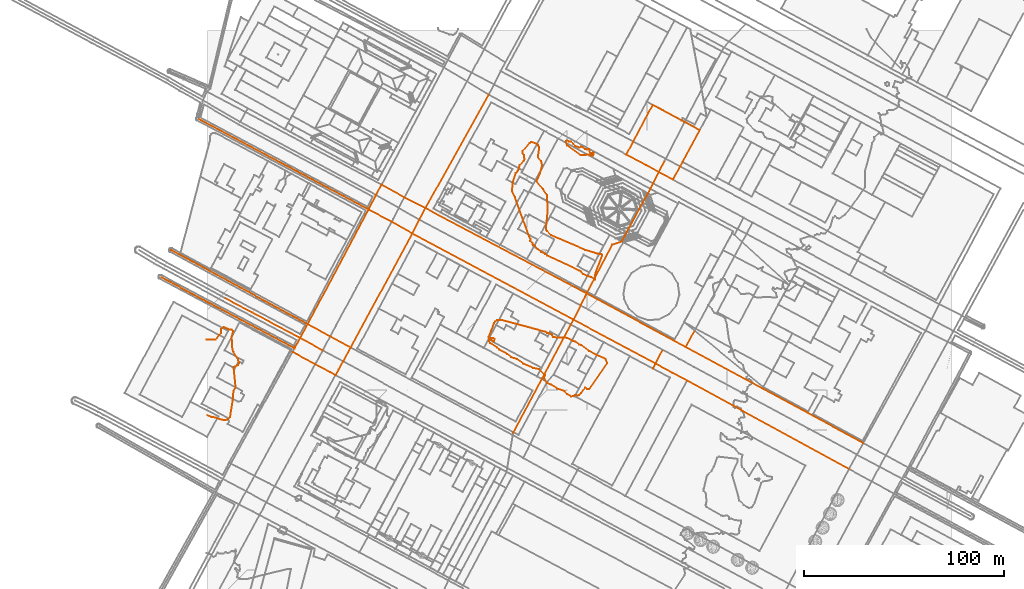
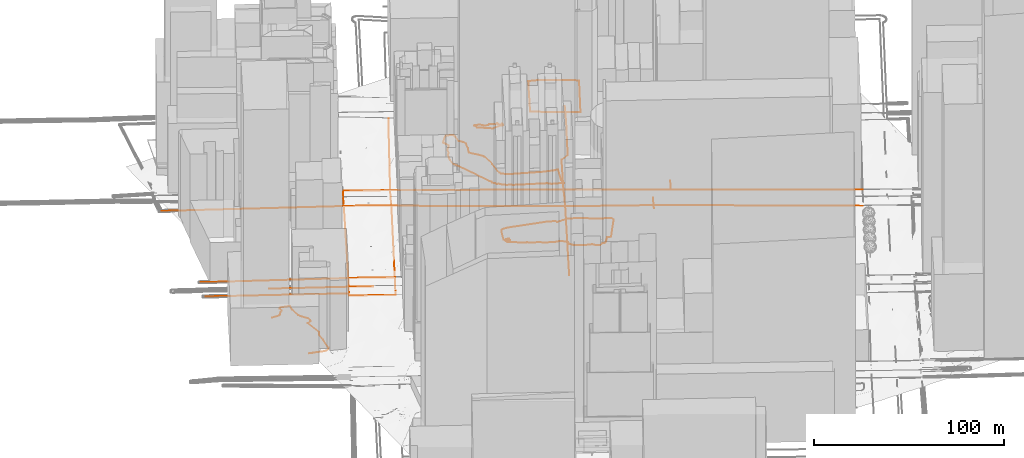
# Not in any storey, part 63 of 80: 22 civil elements, 4 geographic elements.
"""IFC4 model written with IfcOpenShell, lengths in metres."""

from ifc_helpers import new_model, entity, si_unit, frame, origin_with_axes, place, context, subcontext, project, spatial, element, save


model = new_model("IFC4")

# Units and contexts
model_context = context("Model", 3, precision=1e-05, world=origin_with_axes())
body_context = subcontext(model_context, "Body", "Model", "MODEL_VIEW")
ifc_project = project(units=[si_unit("AREAUNIT", "SQUARE_METRE"), si_unit("LENGTHUNIT", "METRE")], contexts=[model_context])

# Sites
site_1_placement = place(None, origin_with_axes())
site_1 = spatial("IfcSite", under=ifc_project, at=site_1_placement, Name="Topoexport Site")
site_2_placement = place(site_1_placement, origin_with_axes())
site_2 = spatial("IfcSite", under=site_1, at=site_2_placement, Name="TPX_ROUTES")

# Civil elements
civil_element_1_placement = place(site_2_placement, frame((221.6914920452, 300.1820826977, 22.0065452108), z_axis=(0.0, 0.0, 1.0), x_axis=(1.0, 0.0, 0.0)))
element("IfcCivilElement", 1, at=civil_element_1_placement, inside=site_2, Name="Route 0", ObjectType="ROAD", context=body_context, shape_type="GeometricCurveSet", body=[
    entity("IfcGeometricCurveSet", [entity("IfcIndexedPolyCurve", entity("IfcCartesianPointList3D", [[7.1813434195, 13.9835591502, -0.007102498], [4.3171463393, 8.3991133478, -0.0301236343], [1.3868431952, 2.6917750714, -0.0089403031], [0.0, 0.0, 0.0]]))]),
])
civil_element_2_placement = place(site_2_placement, frame((209.716351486, 317.3290231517, 22.5387730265), z_axis=(0.0, 0.0, 1.0), x_axis=(1.0, 0.0, 0.0)))
element("IfcCivilElement", 2, at=civil_element_2_placement, inside=site_2, Name="Route 18", ObjectType="ROAD", context=body_context, shape_type="GeometricCurveSet", body=[
    entity("IfcGeometricCurveSet", [entity("IfcIndexedPolyCurve", entity("IfcCartesianPointList3D", [[13.224989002, 24.9007489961, -0.0643946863], [3.4611854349, 6.51286982, -0.0049201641], [0.0, 0.0, 0.0], [9.8195148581, -5.2703915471, -0.3813969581], [16.2922868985, -8.7478271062, -0.56235145], [23.3089849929, -12.5408953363, -0.8260529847], [26.8958559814, -5.9488364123, -0.8414921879], [28.0941194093, -3.7366492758, -0.7556451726], [36.7634854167, 12.2182371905, -0.1904538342], [29.1522436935, 16.3263411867, 0.3171468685], [27.6912307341, 17.1087071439, 0.3496432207], [18.2621757, 22.1948782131, 0.4989657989], [13.224989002, 24.9007489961, -0.0643946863]]))]),
])
civil_element_3_placement = place(site_2_placement, frame((190.2222719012, 248.6125172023, 21.7573858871), z_axis=(0.0, 0.0, 1.0), x_axis=(1.0, 0.0, 0.0)))
element("IfcCivilElement", 3, at=civil_element_3_placement, inside=site_2, Name="Route 22", ObjectType="ROAD", context=body_context, shape_type="GeometricCurveSet", body=[
    entity("IfcGeometricCurveSet", [entity("IfcIndexedPolyCurve", entity("IfcCartesianPointList3D", [[31.469220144, 51.5695654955, 0.2491593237], [17.1970672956, 25.2466581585, 0.1757418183], [12.4971571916, 23.6265853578, -0.2456597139], [0.0, 0.0, 0.0]]))]),
])
civil_element_4_placement = place(site_2_placement, frame((239.4445487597, 221.0185473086, 20.588457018), z_axis=(0.0, 0.0, 1.0), x_axis=(1.0, 0.0, 0.0)))
element("IfcCivilElement", 4, at=civil_element_4_placement, inside=site_2, Name="Route 26", ObjectType="ROAD", context=body_context, shape_type="GeometricCurveSet", body=[
    entity("IfcGeometricCurveSet", [entity("IfcIndexedPolyCurve", entity("IfcCartesianPointList3D", [[4.3627355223, 8.1109935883, -0.0503170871], [0.0, 0.0, 0.0]]))]),
])
civil_element_5_placement = place(site_2_placement, frame((183.2933523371, 234.687446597, 21.2020044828), z_axis=(0.0, 0.0, 1.0), x_axis=(1.0, 0.0, 0.0)))
element("IfcCivilElement", 5, at=civil_element_5_placement, inside=site_2, Name="Route 28", ObjectType="ROAD", context=body_context, shape_type="GeometricCurveSet", body=[
    entity("IfcGeometricCurveSet", [entity("IfcIndexedPolyCurve", entity("IfcCartesianPointList3D", [[6.9289195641, 13.9250706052, 0.5553814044], [6.5412600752, 13.1434054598, 0.5564297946], [3.5721866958, 7.1358717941, 0.5930666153], [0.0, 0.0, 0.0]]))]),
])
civil_element_6_placement = place(site_2_placement, frame((223.0244156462, 210.2581966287, 20.9465773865), z_axis=(0.0, 0.0, 1.0), x_axis=(1.0, 0.0, 0.0)))
element("IfcCivilElement", 6, at=civil_element_6_placement, inside=site_2, Name="Route 29", ObjectType="ROAD", context=body_context, shape_type="GeometricCurveSet", body=[
    entity("IfcGeometricCurveSet", [entity("IfcIndexedPolyCurve", entity("IfcCartesianPointList3D", [[4.8122586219, 9.3818691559, -0.111767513], [1.2625798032, 2.4904885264, -0.0685903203], [0.0, 0.0, 0.0]]))]),
])
civil_element_7_placement = place(site_2_placement, frame((102.657445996, 277.837477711, 23.607753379), z_axis=(0.0, 0.0, 1.0), x_axis=(1.0, 0.0, 0.0)))
element("IfcCivilElement", 7, at=civil_element_7_placement, inside=site_2, Name="Route 63", ObjectType="ROAD", context=body_context, shape_type="GeometricCurveSet", body=[
    entity("IfcGeometricCurveSet", [entity("IfcIndexedPolyCurve", entity("IfcCartesianPointList3D", [[218.4686729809, -117.874379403, -5.0704013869], [137.4800820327, -73.5752777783, -3.1306998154], [130.3192845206, -69.7394813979, -2.9728178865], [121.6295494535, -65.088792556, -2.7297663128], [80.6359063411, -43.150031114, -2.4057488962], [0.0, 0.0, 0.0]]))]),
])
civil_element_8_placement = place(site_2_placement, frame((153.1873042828, 178.3599374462, 21.5808719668), z_axis=(0.0, 0.0, 1.0), x_axis=(1.0, 0.0, 0.0)))
element("IfcCivilElement", 8, at=civil_element_8_placement, inside=site_2, Name="Route 71", ObjectType="ROAD", context=body_context, shape_type="GeometricCurveSet", body=[
    entity("IfcGeometricCurveSet", [entity("IfcIndexedPolyCurve", entity("IfcCartesianPointList3D", [[30.1060480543, 56.3275091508, -0.378867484], [0.0, 0.0, 0.0]]))]),
])
civil_element_9_placement = place(site_2_placement, frame((109.1959105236, 290.5033806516, 23.5796819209), z_axis=(0.0, 0.0, 1.0), x_axis=(1.0, 0.0, 0.0)))
element("IfcCivilElement", 9, at=civil_element_9_placement, inside=site_2, Name="Route 73", ObjectType="ROAD", context=body_context, shape_type="GeometricCurveSet", body=[
    entity("IfcGeometricCurveSet", [entity("IfcIndexedPolyCurve", entity("IfcCartesianPointList3D", [[0.0, 0.0, 0.0], [80.6387018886, -42.6725285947, -1.8212476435], [130.2486382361, -69.484833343, -2.9912249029], [219.1057495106, -117.5114905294, -5.0294067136]]))]),
])
civil_element_10_placement = place(site_2_placement, frame((109.1959105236, 290.5033806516, 23.5796819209), z_axis=(0.0, 0.0, 1.0), x_axis=(1.0, 0.0, 0.0)))
element("IfcCivilElement", 10, at=civil_element_10_placement, inside=site_2, Name="Route 79", ObjectType="ROAD", context=body_context, shape_type="GeometricCurveSet", body=[
    entity("IfcGeometricCurveSet", [entity("IfcIndexedPolyCurve", entity("IfcCartesianPointList3D", [[0.0, 0.0, 0.0], [31.6957949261, 56.8010097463, 0.557950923]]))]),
])
civil_element_11_placement = place(site_2_placement, frame((-4.4717454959, 335.269331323, 22.9013039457), z_axis=(0.0, 0.0, 1.0), x_axis=(1.0, 0.0, 0.0)))
element("IfcCivilElement", 11, at=civil_element_11_placement, inside=site_2, Name="Route 93", ObjectType="ROAD", context=body_context, shape_type="GeometricCurveSet", body=[
    entity("IfcGeometricCurveSet", [entity("IfcIndexedPolyCurve", entity("IfcCartesianPointList3D", [[0.0, 0.0, 0.0], [85.1859384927, -45.4520105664, 0.9215437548]]))]),
])
civil_element_12_placement = place(site_2_placement, frame((80.7141929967, 289.8173207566, 23.8228477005), z_axis=(0.0, 0.0, 1.0), x_axis=(1.0, 0.0, 0.0)))
element("IfcCivilElement", 12, at=civil_element_12_placement, inside=site_2, Name="Route 94", ObjectType="ROAD", context=body_context, shape_type="GeometricCurveSet", body=[
    entity("IfcGeometricCurveSet", [entity("IfcIndexedPolyCurve", entity("IfcCartesianPointList3D", [[6.5415840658, 12.3994652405, 0.1173925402], [3.7052368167, 7.3150021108, 0.1115633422], [0.0, 0.0, 0.0], [11.6607876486, -6.0929483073, -0.0499427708], [21.9432529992, -11.9798430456, -0.2150943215], [25.4419814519, -5.0558072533, -0.2664861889], [28.4817175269, 0.686059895, -0.2431657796], [17.9429025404, 6.1147755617, 0.0560787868], [6.5415840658, 12.3994652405, 0.1173925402]]))]),
])
civil_element_13_placement = place(site_2_placement, frame((50.2902992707, 232.4651420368, 23.0374757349), z_axis=(0.0, 0.0, 1.0), x_axis=(1.0, 0.0, 0.0)))
element("IfcCivilElement", 13, at=civil_element_13_placement, inside=site_2, Name="Route 95", ObjectType="ROAD", context=body_context, shape_type="GeometricCurveSet", body=[
    entity("IfcGeometricCurveSet", [entity("IfcIndexedPolyCurve", entity("IfcCartesianPointList3D", [[30.4238937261, 57.3521787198, 0.7853719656], [0.0, 0.0, 0.0]]))]),
])
civil_element_14_placement = place(site_2_placement, frame((71.7914187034, 220.768731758, 23.068825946), z_axis=(0.0, 0.0, 1.0), x_axis=(1.0, 0.0, 0.0)))
element("IfcCivilElement", 14, at=civil_element_14_placement, inside=site_2, Name="Route 96", ObjectType="ROAD", context=body_context, shape_type="GeometricCurveSet", body=[
    entity("IfcGeometricCurveSet", [entity("IfcIndexedPolyCurve", entity("IfcCartesianPointList3D", [[30.8660272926, 57.068745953, 0.538927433], [0.0, 0.0, 0.0]]))]),
])
civil_element_15_placement = place(site_2_placement, frame((50.2902992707, 232.4651420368, 23.0374757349), z_axis=(0.0, 0.0, 1.0), x_axis=(1.0, 0.0, 0.0)))
element("IfcCivilElement", 15, at=civil_element_15_placement, inside=site_2, Name="Route 97", ObjectType="ROAD", context=body_context, shape_type="GeometricCurveSet", body=[
    entity("IfcGeometricCurveSet", [entity("IfcIndexedPolyCurve", entity("IfcCartesianPointList3D", [[0.0, 0.0, 0.0], [11.2645412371, -6.1309043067, 0.1583547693], [21.5011194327, -11.6964102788, 0.0313502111]]))]),
])
civil_element_16_placement = place(site_2_placement, frame((43.6855115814, 220.4091503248, 22.8510504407), z_axis=(0.0, 0.0, 1.0), x_axis=(1.0, 0.0, 0.0)))
element("IfcCivilElement", 16, at=civil_element_16_placement, inside=site_2, Name="Route 98", ObjectType="ROAD", context=body_context, shape_type="GeometricCurveSet", body=[
    entity("IfcGeometricCurveSet", [entity("IfcIndexedPolyCurve", entity("IfcCartesianPointList3D", [[0.0, 0.0, 0.0], [0.446372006, 0.8156452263, 0.0232480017], [2.827063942, 5.1620533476, 0.1054139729], [6.6047876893, 12.055991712, 0.1864252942]]))]),
])
civil_element_17_placement = place(site_2_placement, frame((22.7047984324, 238.1846101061, 22.8365187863), z_axis=(0.0, 0.0, 1.0), x_axis=(1.0, 0.0, 0.0)))
element("IfcCivilElement", 17, at=civil_element_17_placement, inside=site_2, Name="Route 99", ObjectType="ROAD", context=body_context, shape_type="GeometricCurveSet", body=[
    entity("IfcGeometricCurveSet", [entity("IfcIndexedPolyCurve", entity("IfcCartesianPointList3D", [[0.0, 0.0, 0.0], [23.8077770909, -12.6134064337, 0.1199456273], [35.1243848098, -18.8658369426, 0.1970707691]]))]),
])
civil_element_18_placement = place(site_2_placement, frame((-17.9753778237, 269.553912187, 21.7094315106), z_axis=(0.0, 0.0, 1.0), x_axis=(1.0, 0.0, 0.0)))
element("IfcCivilElement", 18, at=civil_element_18_placement, inside=site_2, Name="Route 100", ObjectType="ROAD", context=body_context, shape_type="GeometricCurveSet", body=[
    entity("IfcGeometricCurveSet", [entity("IfcIndexedPolyCurve", entity("IfcCartesianPointList3D", [[68.2656770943, -37.0887701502, 1.3280442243], [0.0, 0.0, 0.0]]))]),
])
civil_element_19_placement = place(site_2_placement, frame((-23.3654970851, 256.1131870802, 22.6185185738), z_axis=(0.0, 0.0, 1.0), x_axis=(1.0, 0.0, 0.0)))
element("IfcCivilElement", 19, at=civil_element_19_placement, inside=site_2, Name="Route 101", ObjectType="ROAD", context=body_context, shape_type="GeometricCurveSet", body=[
    entity("IfcGeometricCurveSet", [entity("IfcIndexedPolyCurve", entity("IfcCartesianPointList3D", [[0.0, 0.0, 0.0], [67.0510086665, -35.7040367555, 0.2325318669]]))]),
])
civil_element_20_placement = place(site_2_placement, frame((8.9366389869, 245.4744648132, 22.8469934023), z_axis=(0.0, 0.0, 1.0), x_axis=(1.0, 0.0, 0.0)))
element("IfcCivilElement", 20, at=civil_element_20_placement, inside=site_2, Name="Route 102", ObjectType="ROAD", context=body_context, shape_type="GeometricCurveSet", body=[
    entity("IfcGeometricCurveSet", [entity("IfcIndexedPolyCurve", entity("IfcCartesianPointList3D", [[0.0, 0.0, 0.0], [13.7681594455, -7.2898547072, -0.010474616]]))]),
])
civil_element_21_placement = place(site_2_placement, frame((42.6934159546, 218.6101730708, 22.784377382), z_axis=(0.0, 0.0, 1.0), x_axis=(1.0, 0.0, 0.0)))
element("IfcCivilElement", 21, at=civil_element_21_placement, inside=site_2, Name="Route 105", ObjectType="ROAD", context=body_context, shape_type="GeometricCurveSet", body=[
    entity("IfcGeometricCurveSet", [entity("IfcIndexedPolyCurve", entity("IfcCartesianPointList3D", [[21.5095865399, -11.6963345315, 0.0193814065], [18.7649268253, -10.1405765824, 0.0803409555], [11.3749239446, -6.1851460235, 0.0625469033], [1.9714278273, -1.1206496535, 0.0317094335], [0.0, 0.0, 0.0]]))]),
])
civil_element_22_placement = place(site_2_placement, frame((64.2030024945, 206.9138385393, 22.8037587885), z_axis=(0.0, 0.0, 1.0), x_axis=(1.0, 0.0, 0.0)))
element("IfcCivilElement", 22, at=civil_element_22_placement, inside=site_2, Name="Route 106", ObjectType="ROAD", context=body_context, shape_type="GeometricCurveSet", body=[
    entity("IfcGeometricCurveSet", [entity("IfcIndexedPolyCurve", entity("IfcCartesianPointList3D", [[7.5884162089, 13.8548932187, 0.2650671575], [3.8107057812, 6.9609437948, 0.1635970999], [1.6298840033, 2.849996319, 0.0696722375], [0.0, 0.0, 0.0]]))]),
])

# Site
site_3_placement = place(site_1_placement, origin_with_axes())
site_3 = spatial("IfcSite", under=site_1, at=site_3_placement, Name="TPX_CONTOURS")

# Geographic elements
geographic_element_1_placement = place(site_3_placement, frame((179.5478322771, 324.0447113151, 20.0), z_axis=(0.0, 0.0, 1.0), x_axis=(1.0, 0.0, 0.0)))
element("IfcGeographicElement", 23, at=geographic_element_1_placement, inside=site_3, Name="Contour 20.0 m", PredefinedType="NOTDEFINED", context=body_context, shape_type="GeometricCurveSet", body=[
    entity("IfcGeometricCurveSet", [entity("IfcIndexedPolyCurve", entity("IfcCartesianPointList3D", [[13.6436704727, -7.0982305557, 0.0], [13.9050490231, -6.0, 0.0], [13.6436704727, -5.7284860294, 0.0], [13.0319699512, -6.0, 0.0], [12.6436704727, -6.6668087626, 0.0], [11.7792610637, -5.0, 0.0], [11.6436704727, -3.8823512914, 0.0], [10.6436704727, -4.144213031, 0.0], [9.6436704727, -3.9954131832, 0.0], [7.6436704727, -2.7212588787, 0.0], [6.6436704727, -3.1965274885, 0.0], [4.6436704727, -2.3911730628, 0.0], [2.6436704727, -0.0876366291, 0.0], [1.6436704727, -0.2877341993, 0.0], [0.6436704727, 0.3405535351, 0.0], [0.0, 0.0, 0.0], [0.6436704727, -2.1197408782, 0.0], [7.2942356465, -7.0, 0.0], [11.6436704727, -6.7170598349, 0.0], [12.6436704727, -7.1406942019, 0.0], [13.6436704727, -7.0982305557, 0.0]]))]),
])
geographic_element_2_placement = place(site_3_placement, frame((152.6583533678, 299.0447113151, 20.0), z_axis=(0.0, 0.0, 1.0), x_axis=(1.0, 0.0, 0.0)))
element("IfcGeographicElement", 24, at=geographic_element_2_placement, inside=site_3, Name="Contour 20.0 m", PredefinedType="NOTDEFINED", context=body_context, shape_type="GeometricCurveSet", body=[
    entity("IfcGeometricCurveSet", [entity("IfcIndexedPolyCurve", entity("IfcCartesianPointList3D", [[41.533149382, -44.1426469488, 0.0], [41.5958788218, -41.0, 0.0], [45.0331732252, -32.0, 0.0], [44.533149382, -31.5383949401, 0.0], [42.533149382, -31.2498420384, 0.0], [36.533149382, -29.3844302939, 0.0], [19.533149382, -22.0830763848, 0.0], [17.3334316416, -20.0, 0.0], [16.8491015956, -19.0, 0.0], [17.7150463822, -10.0, 0.0], [17.4618551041, -2.0, 0.0], [15.4196989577, 1.0, 0.0], [12.169711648, 5.0, 0.0], [13.8880400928, 9.0, 0.0], [14.9722449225, 13.0, 0.0], [14.533149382, 15.0003541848, 0.0], [12.8191283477, 17.0, 0.0], [13.3953182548, 21.0, 0.0], [13.4059913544, 22.0, 0.0], [12.9922755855, 23.0, 0.0], [12.533149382, 23.5491397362, 0.0], [9.533149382, 24.6552216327, 0.0], [8.6283982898, 24.0, 0.0], [5.1047103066, 20.0, 0.0], [5.2606522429, 19.0, 0.0], [5.8665957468, 18.0, 0.0], [6.1240840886, 16.0, 0.0], [5.6442063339, 15.0, 0.0], [3.7519768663, 13.0, 0.0], [2.7978032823, 10.0, 0.0], [1.7184175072, 9.0, 0.0], [0.1258628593, 4.0, 0.0], [0.0, 0.0, 0.0], [1.3190242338, -3.0, 0.0], [8.604794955, -23.0, 0.0], [9.1999078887, -24.0, 0.0], [9.0334176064, -25.0, 0.0], [10.1332924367, -26.0, 0.0], [10.3970237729, -27.0, 0.0], [11.533149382, -27.5553883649, 0.0], [12.7073869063, -29.0, 0.0], [14.533149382, -30.4283446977, 0.0], [16.533149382, -31.3634640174, 0.0], [17.533149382, -32.1997820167, 0.0], [33.533149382, -39.7239721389, 0.0], [34.533149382, -40.3497940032, 0.0], [35.533149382, -41.4542971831, 0.0], [37.533149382, -42.4812588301, 0.0], [39.533149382, -42.9998526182, 0.0], [41.533149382, -44.1426469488, 0.0]]))]),
])
geographic_element_3_placement = place(site_3_placement, frame((140.8839853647, 226.0447113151, 20.0), z_axis=(0.0, 0.0, 1.0), x_axis=(1.0, 0.0, 0.0)))
element("IfcGeographicElement", 25, at=geographic_element_3_placement, inside=site_3, Name="Contour 20.0 m", PredefinedType="NOTDEFINED", context=body_context, shape_type="GeometricCurveSet", body=[
    entity("IfcGeometricCurveSet", [entity("IfcIndexedPolyCurve", entity("IfcCartesianPointList3D", [[44.3075173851, -29.3075381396, 0.0], [45.177015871, -29.0, 0.0], [46.2004051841, -28.0, 0.0], [48.3075173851, -25.2105506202, 0.0], [49.3075173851, -26.1361441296, 0.0], [50.3075173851, -25.9090136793, 0.0], [59.3075531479, -13.0, 0.0], [58.6077004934, -11.0, 0.0], [53.9747137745, -9.0, 0.0], [50.1967688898, -7.0, 0.0], [46.3077228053, -4.0, 0.0], [45.3075173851, -3.7198446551, 0.0], [43.3075173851, -2.2271186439, 0.0], [42.2246397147, -2.0, 0.0], [39.3075173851, -0.3998565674, 0.0], [32.3075173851, -0.0830809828, 0.0], [31.8370928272, 1.0, 0.0], [31.3075173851, 1.4501411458, 0.0], [29.3075173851, 2.0002007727, 0.0], [28.3075173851, 2.6317321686, 0.0], [6.3075173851, 8.5883765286, 0.0], [4.3075173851, 8.5882722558, 0.0], [3.3075173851, 7.8181455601, 0.0], [2.6647380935, 7.0, 0.0], [0.0, 0.0, 0.0], [0.3075173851, -0.9997138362, 0.0], [1.3075173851, -0.5000794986, 0.0], [2.3075173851, -0.499940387, 0.0], [2.8789809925, -1.0, 0.0], [2.6823265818, -2.0, 0.0], [2.3075173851, -2.2306315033, 0.0], [1.3075173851, -1.3332344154, 0.0], [0.3075173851, -1.0003818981, 0.0], [0.1965718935, -2.0, 0.0], [0.8080623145, -3.0, 0.0], [4.3075173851, -5.3553473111, 0.0], [5.3075173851, -6.3179359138, 0.0], [9.3075173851, -8.4235489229, 0.0], [11.3075173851, -10.0786405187, 0.0], [14.3075173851, -11.0855863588, 0.0], [17.3075173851, -13.3027943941, 0.0], [22.3075173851, -15.4735195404, 0.0], [25.3075173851, -16.1319148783, 0.0], [28.1712195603, -19.0, 0.0], [27.7660473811, -20.0, 0.0], [27.9460596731, -21.0, 0.0], [29.3393488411, -23.0, 0.0], [31.3075173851, -23.8367779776, 0.0], [34.3075173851, -25.7805348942, 0.0], [37.9920036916, -27.0, 0.0], [39.3075173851, -28.5818181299, 0.0], [41.3075173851, -29.7654407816, 0.0], [43.3075173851, -29.0327518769, 0.0], [44.3075173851, -29.3075381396, 0.0]]))]),
])
geographic_element_4_placement = place(site_3_placement, frame((-0.3084972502, 186.9717452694, 20.0), z_axis=(0.0, 0.0, 1.0), x_axis=(1.0, 0.0, 0.0)))
element("IfcGeographicElement", 26, at=geographic_element_4_placement, inside=site_3, Name="Contour 20.0 m", PredefinedType="NOTDEFINED", context=body_context, shape_type="GeometricCurveSet", body=[
    entity("IfcGeometricCurveSet", [entity("IfcIndexedPolyCurve", entity("IfcCartesianPointList3D", [[0.0, 0.0, 0.0], [2.5, -0.8712941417, 0.0], [4.5, -1.190785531, 0.0], [6.5, -2.0454888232, 0.0], [8.5, -2.3923994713, 0.0], [9.5, -2.4420128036, 0.0], [10.8075060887, -1.9270339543, 0.0], [11.7941466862, -0.9270339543, 0.0], [13.0556579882, 7.0729660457, 0.0], [13.5001059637, 12.0729660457, 0.0], [14.5625491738, 14.0729660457, 0.0], [13.583357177, 24.0729660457, 0.0], [15.7498330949, 25.0729660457, 0.0], [16.2334113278, 26.0729660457, 0.0], [15.7501579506, 28.0729660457, 0.0], [13.5, 31.4899718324, 0.0], [12.9723103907, 33.0729660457, 0.0], [12.6177193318, 39.0729660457, 0.0], [13.3500491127, 42.0729660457, 0.0], [12.5, 42.9230637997, 0.0], [11.5, 42.8423621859, 0.0], [8.5, 44.0382735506, 0.0], [7.3217729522, 43.0729660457, 0.0], [7.3679323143, 41.0729660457, 0.0], [6.2304277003, 40.0729660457, 0.0], [4.5, 37.7309263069, 0.0], [0.0, 37.9249291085, 0.0]]))]),
])

save(model, "model.ifc")
